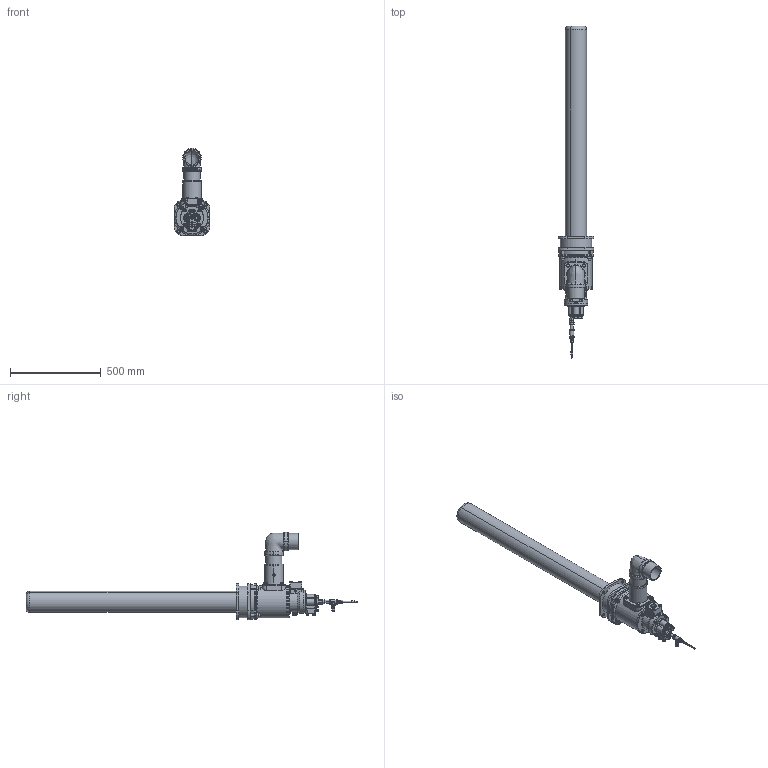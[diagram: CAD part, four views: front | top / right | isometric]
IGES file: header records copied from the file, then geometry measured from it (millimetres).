
Global section: file name: No Iges File Name specified; native system: AutoDesk Inventor R12.0; preprocessor: AutoDesk Inventor Iges Exporter R12.0; date: 20110916.112259; units: millimetre
Bounding box: 198 x 1829.28 x 482.22 mm (x, y, z)
Volume: 22650337.9 mm3; surface area: 1261665.8 mm2
Topology: 24 solids, 24 shells, 2245 faces, 5620 edges, 3555 vertices
Faces by surface type: plane 925, cylinder 413, cone 344, bspline 336, revolution 181, torus 46
Full cylindrical faces by diameter (mm): 14.8 x12, 21.1 x4, 88.9 x9
